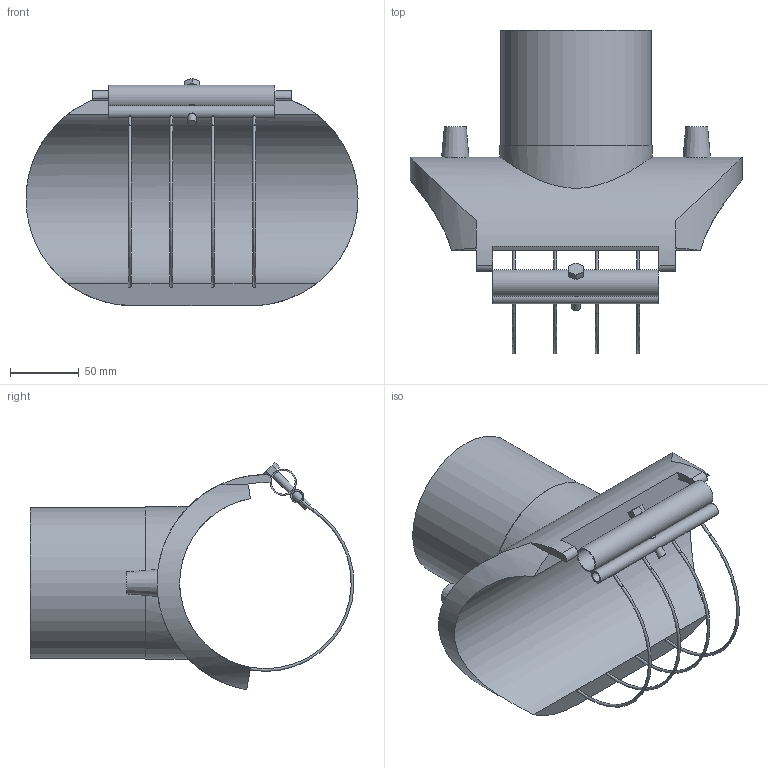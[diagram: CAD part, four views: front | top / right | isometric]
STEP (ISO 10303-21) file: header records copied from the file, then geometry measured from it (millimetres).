
FILE_DESCRIPTION(/* description */ ('Plasson Branch Saddle 125x110'),/* implementation_level */ '2;1');
FILE_NAME(/* name */ 'C:\Dropbox\KIMPROJECTS-Inventor 2019\99-16-3568-Processing\ElectroFusion Fittings\4958X4\4958X4125110T.stp',/* time_stamp */ '2025-05-07T12:15:03+03:00',/* author */ ('KIM'),/* organization */ (''),/* preprocessor_version */ 'ST-DEVELOPER v18.1',/* originating_system */ 'Autodesk Inventor 2021',/* authorisation */ '');
FILE_SCHEMA (('AUTOMOTIVE_DESIGN { 1 0 10303 214 3 1 1 }'));
Length unit declared in the file: millimetre
Products named in the file (1): 4958X4125110T
Bounding box: 242 x 235.96 x 165.73 mm (x, y, z)
Volume: 1046016.9 mm3; surface area: 192420.4 mm2
Topology: 1 solids, 1 shells, 63 faces, 178 edges, 115 vertices
Faces by surface type: cylinder 28, plane 25, torus 8, cone 2
Full cylindrical faces by diameter (mm): 6 x3, 7.6 x1, 8 x1, 16 x1, 17.2 x1, 89 x1, 110 x1, 111 x1
Entity records: 2933 total; most frequent: CARTESIAN_POINT 1238, ORIENTED_EDGE 360, DIRECTION 331, EDGE_CURVE 180, AXIS2_PLACEMENT_3D 135, VERTEX_POINT 115, EDGE_LOOP 81, CIRCLE 67
